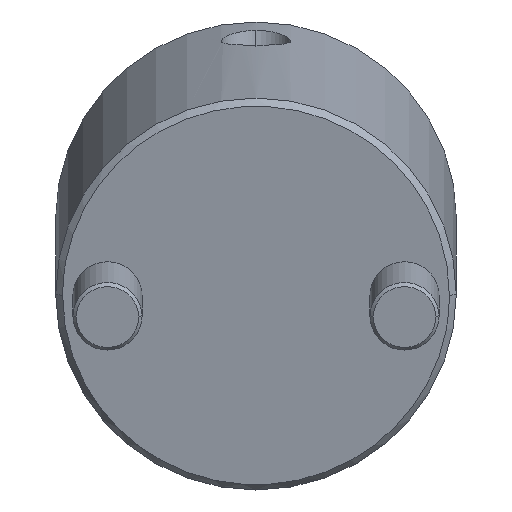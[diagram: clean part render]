
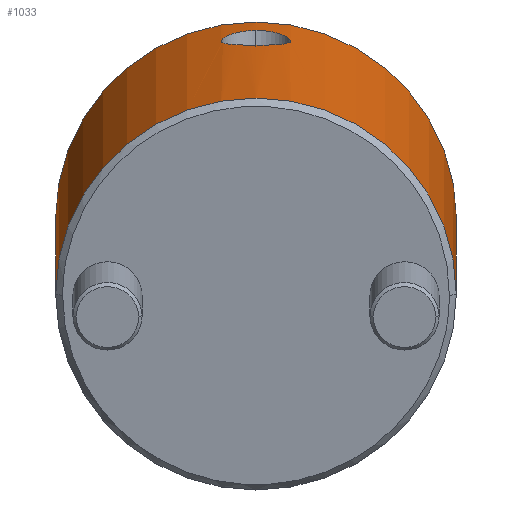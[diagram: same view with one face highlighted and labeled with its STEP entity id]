
A CAD part, front view. The second image highlights one B-rep face of the part: STEP entity #1033.
In plain terms, the highlighted cylindrical face has radius 29 mm (diameter 58 mm), a partial arc.
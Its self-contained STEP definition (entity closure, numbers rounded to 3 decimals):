
#772=CARTESIAN_POINT('Vertex',(0.,29.,1.)) ;
#775=CARTESIAN_POINT('Axis2P3D Location',(0.,0.,1.)) ;
#779=CARTESIAN_POINT('Vertex',(0.,-29.,1.)) ;
#931=CARTESIAN_POINT('Axis2P3D Location',(0.,0.,-2.75)) ;
#936=CARTESIAN_POINT('Line Origine',(0.,29.,-2.75)) ;
#940=CARTESIAN_POINT('Vertex',(0.,29.,54.)) ;
#943=CARTESIAN_POINT('Axis2P3D Location',(0.,0.,54.)) ;
#947=CARTESIAN_POINT('Vertex',(0.,-29.,54.)) ;
#950=CARTESIAN_POINT('Line Origine',(0.,-29.,-2.75)) ;
#962=CARTESIAN_POINT('Control Point',(29.,0.,48.127)) ;
#963=CARTESIAN_POINT('Control Point',(29.,0.424,48.127)) ;
#964=CARTESIAN_POINT('Control Point',(28.992,0.845,48.08)) ;
#965=CARTESIAN_POINT('Control Point',(28.977,1.265,47.984)) ;
#966=CARTESIAN_POINT('Control Point',(28.943,1.873,47.773)) ;
#967=CARTESIAN_POINT('Control Point',(28.898,2.443,47.461)) ;
#968=CARTESIAN_POINT('Control Point',(28.881,2.629,47.346)) ;
#969=CARTESIAN_POINT('Control Point',(28.847,2.99,47.095)) ;
#970=CARTESIAN_POINT('Control Point',(28.81,3.323,46.804)) ;
#971=CARTESIAN_POINT('Control Point',(28.791,3.482,46.649)) ;
#972=CARTESIAN_POINT('Control Point',(28.714,4.093,45.987)) ;
#973=CARTESIAN_POINT('Control Point',(28.642,4.556,45.204)) ;
#974=CARTESIAN_POINT('Control Point',(28.6,4.804,44.567)) ;
#975=CARTESIAN_POINT('Control Point',(28.557,5.048,43.461)) ;
#976=CARTESIAN_POINT('Control Point',(28.566,4.997,42.347)) ;
#977=CARTESIAN_POINT('Control Point',(28.578,4.929,41.907)) ;
#978=CARTESIAN_POINT('Control Point',(28.618,4.701,41.057)) ;
#979=CARTESIAN_POINT('Control Point',(28.681,4.297,40.277)) ;
#980=CARTESIAN_POINT('Control Point',(28.717,4.054,39.914)) ;
#981=CARTESIAN_POINT('Control Point',(28.774,3.632,39.412)) ;
#982=CARTESIAN_POINT('Control Point',(28.831,3.136,38.988)) ;
#983=CARTESIAN_POINT('Control Point',(28.849,2.962,38.856)) ;
#984=CARTESIAN_POINT('Control Point',(28.893,2.511,38.55)) ;
#985=CARTESIAN_POINT('Control Point',(28.932,2.021,38.307)) ;
#986=CARTESIAN_POINT('Control Point',(28.952,1.717,38.186)) ;
#987=CARTESIAN_POINT('Control Point',(28.979,1.192,38.026)) ;
#988=CARTESIAN_POINT('Control Point',(28.994,0.653,37.938)) ;
#989=CARTESIAN_POINT('Control Point',(28.998,0.437,37.915)) ;
#990=CARTESIAN_POINT('Control Point',(29.,0.219,37.903)) ;
#991=CARTESIAN_POINT('Control Point',(29.,0.,37.903)) ;
#992=CARTESIAN_POINT('Vertex',(29.,0.,48.127)) ;
#994=CARTESIAN_POINT('Vertex',(29.,0.,37.903)) ;
#998=CARTESIAN_POINT('Control Point',(29.,0.,37.903)) ;
#999=CARTESIAN_POINT('Control Point',(29.,-0.219,37.903)) ;
#1000=CARTESIAN_POINT('Control Point',(28.998,-0.438,37.915)) ;
#1001=CARTESIAN_POINT('Control Point',(28.994,-0.655,37.939)) ;
#1002=CARTESIAN_POINT('Control Point',(28.979,-1.195,38.027)) ;
#1003=CARTESIAN_POINT('Control Point',(28.952,-1.72,38.187)) ;
#1004=CARTESIAN_POINT('Control Point',(28.932,-2.024,38.308)) ;
#1005=CARTESIAN_POINT('Control Point',(28.893,-2.514,38.551)) ;
#1006=CARTESIAN_POINT('Control Point',(28.849,-2.965,38.858)) ;
#1007=CARTESIAN_POINT('Control Point',(28.83,-3.138,38.99)) ;
#1008=CARTESIAN_POINT('Control Point',(28.774,-3.634,39.414)) ;
#1009=CARTESIAN_POINT('Control Point',(28.717,-4.056,39.917)) ;
#1010=CARTESIAN_POINT('Control Point',(28.681,-4.298,40.28)) ;
#1011=CARTESIAN_POINT('Control Point',(28.617,-4.703,41.06)) ;
#1012=CARTESIAN_POINT('Control Point',(28.578,-4.93,41.91)) ;
#1013=CARTESIAN_POINT('Control Point',(28.566,-4.997,42.351)) ;
#1014=CARTESIAN_POINT('Control Point',(28.557,-5.048,43.464)) ;
#1015=CARTESIAN_POINT('Control Point',(28.6,-4.803,44.57)) ;
#1016=CARTESIAN_POINT('Control Point',(28.643,-4.555,45.207)) ;
#1017=CARTESIAN_POINT('Control Point',(28.714,-4.091,45.99)) ;
#1018=CARTESIAN_POINT('Control Point',(28.791,-3.479,46.652)) ;
#1019=CARTESIAN_POINT('Control Point',(28.81,-3.321,46.806)) ;
#1020=CARTESIAN_POINT('Control Point',(28.847,-2.987,47.096)) ;
#1021=CARTESIAN_POINT('Control Point',(28.882,-2.627,47.348)) ;
#1022=CARTESIAN_POINT('Control Point',(28.898,-2.44,47.463)) ;
#1023=CARTESIAN_POINT('Control Point',(28.943,-1.871,47.774)) ;
#1024=CARTESIAN_POINT('Control Point',(28.977,-1.263,47.985)) ;
#1025=CARTESIAN_POINT('Control Point',(28.992,-0.844,48.08)) ;
#1026=CARTESIAN_POINT('Control Point',(29.,-0.423,48.127)) ;
#1027=CARTESIAN_POINT('Control Point',(29.,0.,48.127)) ;
#776=DIRECTION('Axis2P3D Direction',(0.,0.,1.)) ;
#932=DIRECTION('Axis2P3D Direction',(0.,-0.,1.)) ;
#933=DIRECTION('Axis2P3D XDirection',(0.,-1.,0.)) ;
#937=DIRECTION('Vector Direction',(0.,0.,1.)) ;
#944=DIRECTION('Axis2P3D Direction',(0.,-0.,1.)) ;
#951=DIRECTION('Vector Direction',(0.,0.,1.)) ;
#777=AXIS2_PLACEMENT_3D('Circle Axis2P3D',#775,#776,$) ;
#934=AXIS2_PLACEMENT_3D('Cylinder Axis2P3D',#931,#932,#933) ;
#945=AXIS2_PLACEMENT_3D('Circle Axis2P3D',#943,#944,$) ;
#956=ORIENTED_EDGE('',*,*,#942,.F.) ;
#957=ORIENTED_EDGE('',*,*,#949,.T.) ;
#958=ORIENTED_EDGE('',*,*,#954,.T.) ;
#959=ORIENTED_EDGE('',*,*,#781,.F.) ;
#1030=ORIENTED_EDGE('',*,*,#996,.T.) ;
#1031=ORIENTED_EDGE('',*,*,#1028,.T.) ;
#1032=FACE_BOUND('',#1029,.T.) ;
#938=VECTOR('Line Direction',#937,1.) ;
#952=VECTOR('Line Direction',#951,1.) ;
#1033=ADVANCED_FACE('MANIFOLD_SOLID_BREP #1146',(#960,#1032),#935,.T.) ;
#961=B_SPLINE_CURVE_WITH_KNOTS('',5,(#962,#963,#964,#965,#966,#967,#968,#969,#970,#971,#972,#973,#974,#975,#976,#977,#978,#979,#980,#981,#982,#983,#984,#985,#986,#987,#988,#989,#990,#991),.UNSPECIFIED.,.F.,.U.,(6,3,3,3,3,3,3,3,3,6),(0.,3.069,4.614,6.171,10.888,13.996,17.094,18.642,20.97,22.519),.UNSPECIFIED.) ;
#997=B_SPLINE_CURVE_WITH_KNOTS('',5,(#998,#999,#1000,#1001,#1002,#1003,#1004,#1005,#1006,#1007,#1008,#1009,#1010,#1011,#1012,#1013,#1014,#1015,#1016,#1017,#1018,#1019,#1020,#1021,#1022,#1023,#1024,#1025,#1026,#1027),.UNSPECIFIED.,.F.,.U.,(6,3,3,3,3,3,3,3,3,6),(0.,1.554,3.881,5.43,8.528,11.636,16.353,17.909,19.454,22.519),.UNSPECIFIED.) ;
#778=CIRCLE('generated circle',#777,29.) ;
#946=CIRCLE('generated circle',#945,29.) ;
#935=CYLINDRICAL_SURFACE('generated cylinder',#934,29.) ;
#781=EDGE_CURVE('',#773,#780,#778,.F.) ;
#942=EDGE_CURVE('',#941,#773,#939,.F.) ;
#949=EDGE_CURVE('',#941,#948,#946,.F.) ;
#954=EDGE_CURVE('',#948,#780,#953,.F.) ;
#996=EDGE_CURVE('',#993,#995,#961,.T.) ;
#1028=EDGE_CURVE('',#995,#993,#997,.T.) ;
#955=EDGE_LOOP('',(#956,#957,#958,#959)) ;
#1029=EDGE_LOOP('',(#1030,#1031)) ;
#960=FACE_OUTER_BOUND('',#955,.T.) ;
#939=LINE('Line',#936,#938) ;
#953=LINE('Line',#950,#952) ;
#773=VERTEX_POINT('',#772) ;
#780=VERTEX_POINT('',#779) ;
#941=VERTEX_POINT('',#940) ;
#948=VERTEX_POINT('',#947) ;
#993=VERTEX_POINT('',#992) ;
#995=VERTEX_POINT('',#994) ;
